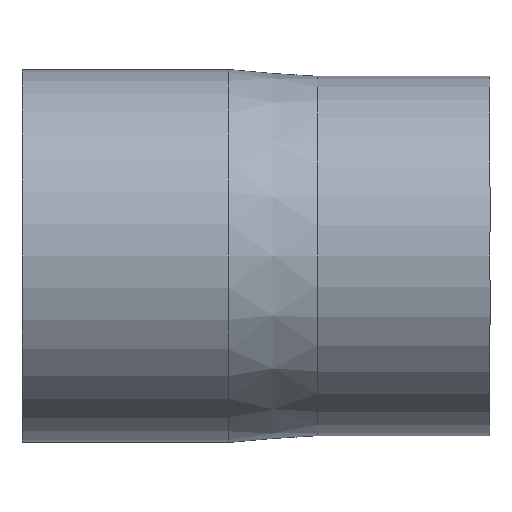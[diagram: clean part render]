
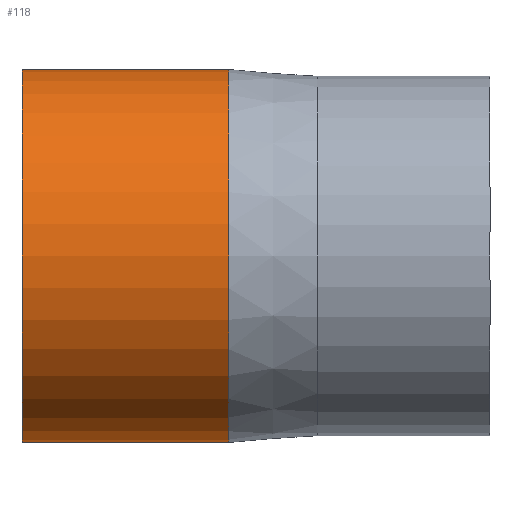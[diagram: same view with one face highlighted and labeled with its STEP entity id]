
A CAD part, front view. The second image highlights one B-rep face of the part: STEP entity #118.
In plain terms, the highlighted cylindrical face has radius 55 mm (diameter 110 mm), a full revolution.
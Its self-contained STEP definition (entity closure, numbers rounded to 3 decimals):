
#18=CYLINDRICAL_SURFACE('',#134,55.);
#25=FACE_BOUND('',#49,.T.);
#35=FACE_OUTER_BOUND('',#48,.T.);
#48=EDGE_LOOP('',(#98));
#49=EDGE_LOOP('',(#99));
#65=CIRCLE('',#133,55.);
#66=CIRCLE('',#135,55.);
#75=VERTEX_POINT('',#199);
#76=VERTEX_POINT('',#202);
#85=EDGE_CURVE('',#75,#75,#65,.T.);
#86=EDGE_CURVE('',#76,#76,#66,.T.);
#98=ORIENTED_EDGE('',*,*,#85,.T.);
#99=ORIENTED_EDGE('',*,*,#86,.F.);
#118=ADVANCED_FACE('',(#35,#25),#18,.T.);
#133=AXIS2_PLACEMENT_3D('',#200,#161,#162);
#134=AXIS2_PLACEMENT_3D('',#201,#163,#164);
#135=AXIS2_PLACEMENT_3D('',#203,#165,#166);
#161=DIRECTION('center_axis',(-1.,0.,0.));
#162=DIRECTION('ref_axis',(0.,0.,1.));
#163=DIRECTION('center_axis',(-1.,0.,0.));
#164=DIRECTION('ref_axis',(0.,-1.,0.));
#165=DIRECTION('center_axis',(-1.,0.,0.));
#166=DIRECTION('ref_axis',(0.,0.,1.));
#199=CARTESIAN_POINT('',(-8.,-55.,0.));
#200=CARTESIAN_POINT('Origin',(-8.,0.,0.));
#201=CARTESIAN_POINT('Origin',(-38.5,0.,0.));
#202=CARTESIAN_POINT('',(-69.,-55.,0.));
#203=CARTESIAN_POINT('Origin',(-69.,0.,0.));
